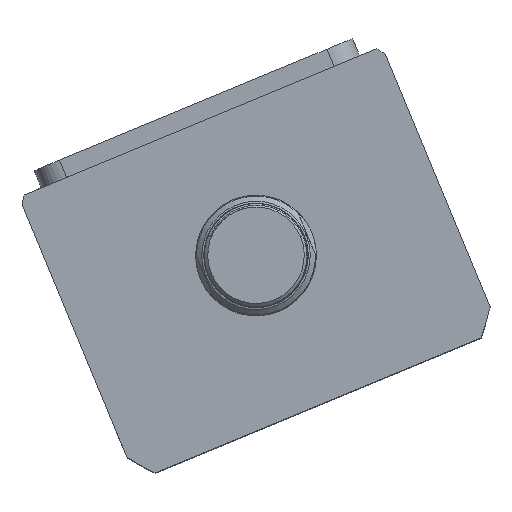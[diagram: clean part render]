
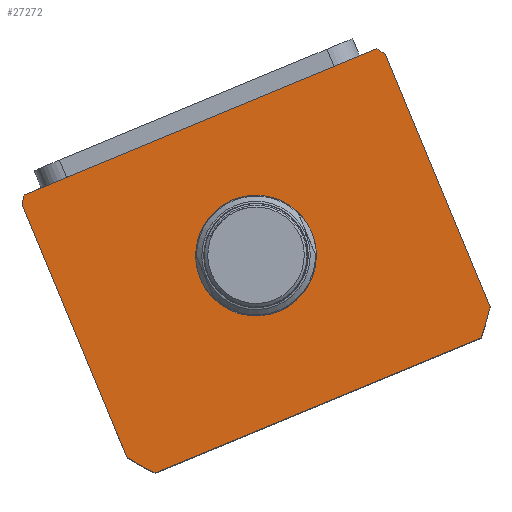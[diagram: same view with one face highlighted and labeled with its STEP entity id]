
A CAD part, top view. The second image highlights one B-rep face of the part: STEP entity #27272.
In plain terms, the highlighted planar face has unit normal (0, 0, 1) as drawn and (0, 0, -1) by its records, which use the part's own axes.
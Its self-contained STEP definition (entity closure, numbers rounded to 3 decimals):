
#63 = VERTEX_POINT ( 'NONE', #11829 ) ;
#532 = ORIENTED_EDGE ( 'NONE', *, *, #20777, .F. ) ;
#571 = VERTEX_POINT ( 'NONE', #12627 ) ;
#598 = VERTEX_POINT ( 'NONE', #22872 ) ;
#1318 = CIRCLE ( 'NONE', #11669, 69.5 ) ;
#1377 = DIRECTION ( 'NONE',  ( 0., 0., 1. ) ) ;
#1468 = CARTESIAN_POINT ( 'NONE',  ( -55.374, 44.5, 0. ) ) ;
#2038 = ORIENTED_EDGE ( 'NONE', *, *, #17808, .F. ) ;
#2111 = EDGE_CURVE ( 'NONE', #23045, #3430, #2895, .T. ) ;
#2230 = LINE ( 'NONE', #10578, #7353 ) ;
#2895 = LINE ( 'NONE', #18607, #20973 ) ;
#3430 = VERTEX_POINT ( 'NONE', #1468 ) ;
#3540 = VECTOR ( 'NONE', #13760, 1000. ) ;
#4284 = EDGE_CURVE ( 'NONE', #598, #17869, #21922, .T. ) ;
#4366 = CARTESIAN_POINT ( 'NONE',  ( 0., 2.5, 0. ) ) ;
#4412 = PLANE ( 'NONE',  #8706 ) ;
#4498 = CARTESIAN_POINT ( 'NONE',  ( -17.5, 2.5, 0. ) ) ;
#5140 = CIRCLE ( 'NONE', #22449, 69.5 ) ;
#5534 = DIRECTION ( 'NONE',  ( -1., 0., 0. ) ) ;
#5929 = CARTESIAN_POINT ( 'NONE',  ( 0., 2.5, 0. ) ) ;
#6256 = DIRECTION ( 'NONE',  ( 0., 0., 1. ) ) ;
#6279 = FACE_OUTER_BOUND ( 'NONE', #10971, .T. ) ;
#6550 = DIRECTION ( 'NONE',  ( 1., 0., 0. ) ) ;
#7001 = ORIENTED_EDGE ( 'NONE', *, *, #10831, .T. ) ;
#7353 = VECTOR ( 'NONE', #25287, 1000. ) ;
#8166 = DIRECTION ( 'NONE',  ( 1., 0., 0. ) ) ;
#8706 = AXIS2_PLACEMENT_3D ( 'NONE', #8834, #24026, #11023 ) ;
#8834 = CARTESIAN_POINT ( 'NONE',  ( 0., 0., 0. ) ) ;
#8854 = CARTESIAN_POINT ( 'NONE',  ( 51.198, -44.5, 0. ) ) ;
#9358 = LINE ( 'NONE', #26760, #3540 ) ;
#9359 = EDGE_LOOP ( 'NONE', ( #7001, #10788 ) ) ;
#9462 = DIRECTION ( 'NONE',  ( 1., 0., 0. ) ) ;
#9566 = AXIS2_PLACEMENT_3D ( 'NONE', #19332, #6256, #21479 ) ;
#10578 = CARTESIAN_POINT ( 'NONE',  ( 57., 44.5, 0. ) ) ;
#10788 = ORIENTED_EDGE ( 'NONE', *, *, #12388, .T. ) ;
#10831 = EDGE_CURVE ( 'NONE', #15673, #27349, #23091, .T. ) ;
#10971 = EDGE_LOOP ( 'NONE', ( #17223, #11635, #532, #19516, #20580, #17314, #2038, #15467 ) ) ;
#10993 = DIRECTION ( 'NONE',  ( 0., 0., 1. ) ) ;
#11023 = DIRECTION ( 'NONE',  ( 1., 0., 0. ) ) ;
#11135 = EDGE_CURVE ( 'NONE', #17869, #17592, #20348, .T. ) ;
#11530 = VECTOR ( 'NONE', #9462, 1000. ) ;
#11635 = ORIENTED_EDGE ( 'NONE', *, *, #25197, .F. ) ;
#11669 = AXIS2_PLACEMENT_3D ( 'NONE', #5929, #21162, #8166 ) ;
#11829 = CARTESIAN_POINT ( 'NONE',  ( -57., 42.265, 0. ) ) ;
#11858 = CARTESIAN_POINT ( 'NONE',  ( 57., -37.265, 0. ) ) ;
#11971 = CARTESIAN_POINT ( 'NONE',  ( 0., 2.5, 0. ) ) ;
#12388 = EDGE_CURVE ( 'NONE', #27349, #15673, #16599, .T. ) ;
#12627 = CARTESIAN_POINT ( 'NONE',  ( 57., 42.265, 0. ) ) ;
#13694 = AXIS2_PLACEMENT_3D ( 'NONE', #11971, #27123, #14129 ) ;
#13760 = DIRECTION ( 'NONE',  ( 0., -1., 0. ) ) ;
#13824 = CARTESIAN_POINT ( 'NONE',  ( -57., -44.5, 0. ) ) ;
#14129 = DIRECTION ( 'NONE',  ( 1., 0., 0. ) ) ;
#14444 = CARTESIAN_POINT ( 'NONE',  ( 0., 2.5, 0. ) ) ;
#15467 = ORIENTED_EDGE ( 'NONE', *, *, #2111, .F. ) ;
#15673 = VERTEX_POINT ( 'NONE', #20193 ) ;
#16019 = EDGE_CURVE ( 'NONE', #571, #23045, #5140, .T. ) ;
#16246 = AXIS2_PLACEMENT_3D ( 'NONE', #23988, #10993, #26183 ) ;
#16599 = CIRCLE ( 'NONE', #13694, 17.5 ) ;
#16634 = DIRECTION ( 'NONE',  ( 1., 0., 0. ) ) ;
#17223 = ORIENTED_EDGE ( 'NONE', *, *, #16019, .F. ) ;
#17314 = ORIENTED_EDGE ( 'NONE', *, *, #27551, .F. ) ;
#17592 = VERTEX_POINT ( 'NONE', #8854 ) ;
#17808 = EDGE_CURVE ( 'NONE', #3430, #63, #20097, .T. ) ;
#17869 = VERTEX_POINT ( 'NONE', #19427 ) ;
#18575 = CARTESIAN_POINT ( 'NONE',  ( 55.374, 44.5, 0. ) ) ;
#18607 = CARTESIAN_POINT ( 'NONE',  ( -57., 44.5, 0. ) ) ;
#19332 = CARTESIAN_POINT ( 'NONE',  ( 0., 2.5, 0. ) ) ;
#19427 = CARTESIAN_POINT ( 'NONE',  ( -51.198, -44.5, 0. ) ) ;
#19516 = ORIENTED_EDGE ( 'NONE', *, *, #11135, .F. ) ;
#19625 = DIRECTION ( 'NONE',  ( 0., 0., 1. ) ) ;
#20097 = CIRCLE ( 'NONE', #9566, 69.5 ) ;
#20193 = CARTESIAN_POINT ( 'NONE',  ( 17.5, 2.5, 0. ) ) ;
#20348 = LINE ( 'NONE', #13824, #11530 ) ;
#20580 = ORIENTED_EDGE ( 'NONE', *, *, #4284, .F. ) ;
#20777 = EDGE_CURVE ( 'NONE', #17592, #23850, #1318, .T. ) ;
#20973 = VECTOR ( 'NONE', #5534, 1000. ) ;
#21162 = DIRECTION ( 'NONE',  ( 0., 0., 1. ) ) ;
#21479 = DIRECTION ( 'NONE',  ( 1., 0., 0. ) ) ;
#21922 = CIRCLE ( 'NONE', #22873, 69.5 ) ;
#22449 = AXIS2_PLACEMENT_3D ( 'NONE', #14444, #1377, #16634 ) ;
#22872 = CARTESIAN_POINT ( 'NONE',  ( -57., -37.265, 0. ) ) ;
#22873 = AXIS2_PLACEMENT_3D ( 'NONE', #4366, #19625, #6550 ) ;
#22976 = FACE_BOUND ( 'NONE', #9359, .T. ) ;
#23045 = VERTEX_POINT ( 'NONE', #18575 ) ;
#23091 = CIRCLE ( 'NONE', #16246, 17.5 ) ;
#23850 = VERTEX_POINT ( 'NONE', #11858 ) ;
#23988 = CARTESIAN_POINT ( 'NONE',  ( 0., 2.5, 0. ) ) ;
#24026 = DIRECTION ( 'NONE',  ( 0., 0., 1. ) ) ;
#25197 = EDGE_CURVE ( 'NONE', #23850, #571, #2230, .T. ) ;
#25287 = DIRECTION ( 'NONE',  ( 0., 1., 0. ) ) ;
#26183 = DIRECTION ( 'NONE',  ( 1., 0., 0. ) ) ;
#26760 = CARTESIAN_POINT ( 'NONE',  ( -57., 44.5, 0. ) ) ;
#27123 = DIRECTION ( 'NONE',  ( 0., 0., 1. ) ) ;
#27272 = ADVANCED_FACE ( 'NONE', ( #22976, #6279 ), #4412, .F. ) ;
#27349 = VERTEX_POINT ( 'NONE', #4498 ) ;
#27551 = EDGE_CURVE ( 'NONE', #63, #598, #9358, .T. ) ;
